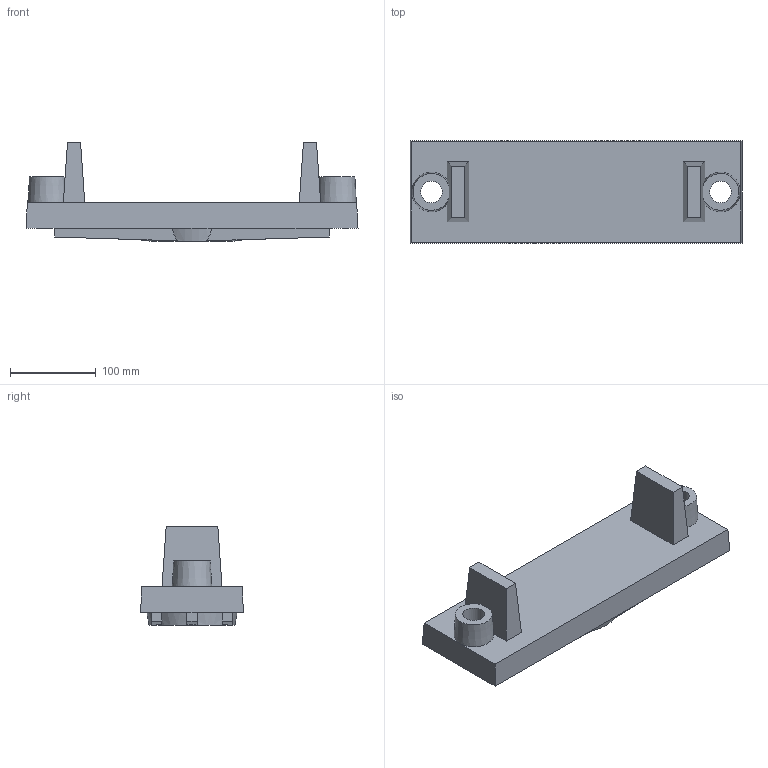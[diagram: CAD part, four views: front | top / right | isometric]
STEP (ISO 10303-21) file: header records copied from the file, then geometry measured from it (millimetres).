
FILE_DESCRIPTION(('FreeCAD Model'),'2;1');
FILE_NAME('C:/mTemp/05 - MECWAY/16 - v7/PLATE.step', '2017-03-28T12:32:00',(''),(''),'Open CASCADE STEP processor 7.0', 'FreeCAD','Unknown');
FILE_SCHEMA(('AUTOMOTIVE_DESIGN_CC2 { 1 2 10303 214 -1 1 5 4 }'));
Length unit declared in the file: millimetre
Products named in the file (1): Pad
Bounding box: 387 x 120 x 115 mm (x, y, z)
Volume: 1800523.8 mm3; surface area: 176071.1 mm2
Topology: 1 solids, 1 shells, 50 faces, 133 edges, 89 vertices
Faces by surface type: plane 44, cone 4, cylinder 2
Full cylindrical faces by diameter (mm): 25.4 x2
Entity records: 3304 total; most frequent: CARTESIAN_POINT 962, DIRECTION 339, ORIENTED_EDGE 266, PCURVE 266, DEFINITIONAL_REPRESENTATION 266, B_SPLINE_CURVE_WITH_KNOTS 166, LINE 150, VECTOR 150
